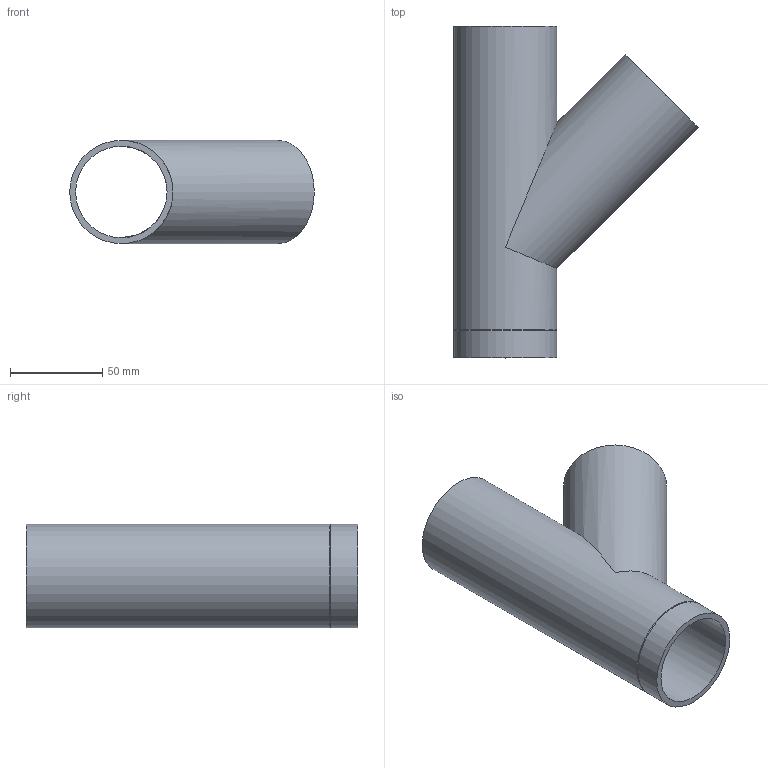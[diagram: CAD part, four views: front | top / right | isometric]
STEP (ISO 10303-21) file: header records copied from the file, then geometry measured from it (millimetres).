
FILE_DESCRIPTION(/* description */ (''),/* implementation_level */ '2;1');
FILE_NAME(/* name */ 'Z:\Geberit\Export\Export18\Abzweig Gerade_Ipart\stp\305054.stp',/* time_stamp */ '2014-08-26T21:50:20+02:00',/* author */ ('ML'),/* organization */ (''),/* preprocessor_version */ 'ST-DEVELOPER v15.2',/* originating_system */ 'Autodesk Inventor 2014',/* authorisation */ '');
FILE_SCHEMA (('AUTOMOTIVE_DESIGN { 1 0 10303 214 3 1 1 }'));
Length unit declared in the file: millimetre
Products named in the file (1): 305054
Bounding box: 132.65 x 180 x 56 mm (x, y, z)
Volume: 133945.8 mm3; surface area: 85401.2 mm2
Topology: 1 solids, 1 shells, 10 faces, 26 edges, 18 vertices
Faces by surface type: cylinder 5, plane 3, cone 2
Full cylindrical faces by diameter (mm): 49.6 x2, 56 x3
Entity records: 263 total; most frequent: DIRECTION 48, CARTESIAN_POINT 37, ORIENTED_EDGE 26, AXIS2_PLACEMENT_3D 24, EDGE_LOOP 22, FACE_BOUND 17, VERTEX_POINT 13, EDGE_CURVE 13
